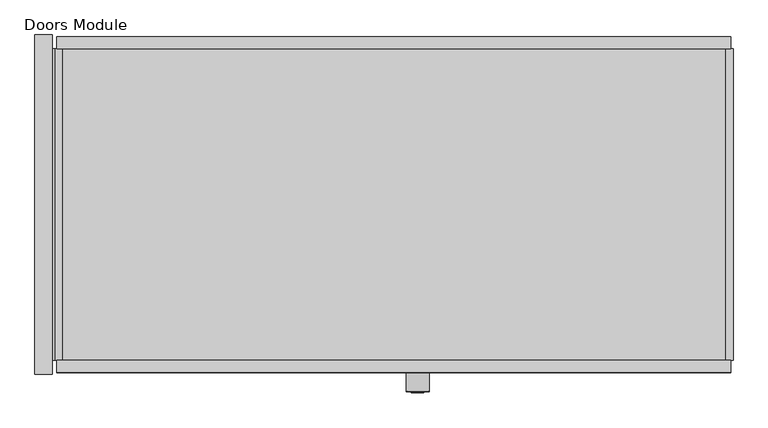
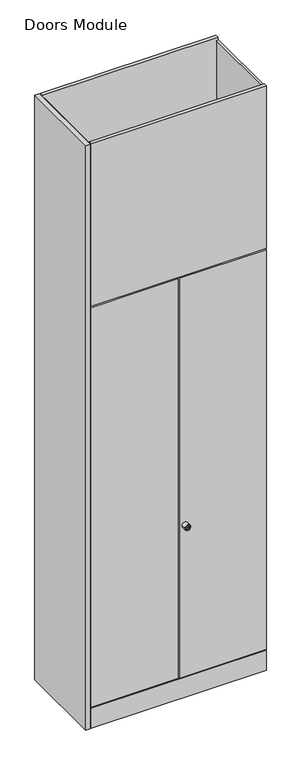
"""IFC4 building model written with IfcOpenShell, lengths in millimetres: furniture geometry, Furniture_Storage_Spacestor_SignatureStoragewall : Doors Module."""

from ifc_helpers import new_model, si_unit, point, frame, origin, origin_with_axes, place, context, project, spatial, polyline, circle_curve, ellipse_curve, trimmed, outline, extrude, source, transform, mapped, element, save
from ifc_brep_helpers import plane_surface, cylinder_surface, revolved_surface, advanced_brep


def doors_module_314bc384(model_context):
    return source(origin(), model_context, "Body", "SolidModel", [
        extrude(outline(polyline([(996.5, 459.0), (3.5, 459.0), (3.5, 477.0), (996.5, 477.0), (996.5, 459.0)])), origin_with_axes(), (0.0, 0.0, 1.0), 3500.0),
        extrude(outline(polyline([(996.5, -18.0), (3.5, -18.0), (3.5, 0.0), (996.5, 0.0), (996.5, -18.0)])), origin_with_axes(), (0.0, 0.0, 1.0), 118.0),
        extrude(outline(polyline([(996.5, -18.0), (3.5, -18.0), (3.5, 0.0), (996.5, 0.0), (996.5, -18.0)])), frame((0.0, 0.0, 2525.0), z_axis=(0.0, 0.0, 1.0), x_axis=(1.0, 0.0, 0.0)), (0.0, 0.0, 1.0), 975.0),
        extrude(outline(polyline([(-29.0, 479.5), (-3.5, 479.5), (-3.5, -20.5), (-29.0, -20.5), (-29.0, 479.5)])), origin_with_axes(), (0.0, 0.0, 1.0), 3500.0),
        extrude(outline(polyline([(0.0, 0.0), (-11.0, 0.0), (-11.0, 459.0), (0.0, 459.0), (0.0, 0.0)])), origin_with_axes(), (0.0, 0.0, 1.0), 3482.0),
        extrude(outline(polyline([(1000.0, 0.0), (989.0, 0.0), (989.0, 459.0), (1000.0, 459.0), (1000.0, 0.0)])), origin_with_axes(), (0.0, 0.0, 1.0), 3482.0),
        extrude(outline(polyline([(11.0, 0.0), (0.0, 0.0), (0.0, 459.0), (11.0, 459.0), (11.0, 0.0)])), origin_with_axes(), (0.0, 0.0, 1.0), 3482.0),
        extrude(outline(polyline([(989.0, 0.0), (11.0, 0.0), (11.0, 459.0), (989.0, 459.0), (989.0, 0.0)])), frame((0.0, 0.0, 2023.0), z_axis=(0.0, 0.0, 1.0), x_axis=(1.0, 0.0, 0.0)), (0.0, 0.0, 1.0), 22.0),
        extrude(outline(polyline([(989.0, 0.0), (11.0, 0.0), (11.0, 459.0), (989.0, 459.0), (989.0, 0.0)])), frame((0.0, 0.0, 1639.0), z_axis=(0.0, 0.0, 1.0), x_axis=(1.0, 0.0, 0.0)), (0.0, 0.0, 1.0), 22.0),
        extrude(outline(polyline([(989.0, 0.0), (11.0, 0.0), (11.0, 459.0), (989.0, 459.0), (989.0, 0.0)])), frame((0.0, 0.0, 1255.0), z_axis=(0.0, 0.0, 1.0), x_axis=(1.0, 0.0, 0.0)), (0.0, 0.0, 1.0), 22.0),
        extrude(outline(polyline([(989.0, 0.0), (11.0, 0.0), (11.0, 459.0), (989.0, 459.0), (989.0, 0.0)])), frame((0.0, 0.0, 871.0), z_axis=(0.0, 0.0, 1.0), x_axis=(1.0, 0.0, 0.0)), (0.0, 0.0, 1.0), 22.0),
        extrude(outline(polyline([(989.0, 0.0), (11.0, 0.0), (11.0, 459.0), (989.0, 459.0), (989.0, 0.0)])), frame((0.0, 0.0, 487.0), z_axis=(0.0, 0.0, 1.0), x_axis=(1.0, 0.0, 0.0)), (0.0, 0.0, 1.0), 22.0),
        advanced_brep(
        [(552.0, -45.3116344, 1032.0), (518.0, -45.3116344, 1032.0), (518.0, -18.0, 1032.0), (552.0, -18.0, 1032.0), (535.0, -18.0, 1032.0), (543.9747319, -46.3150077, 1032.0), (526.0252681, -46.3150077, 1032.0), (519.0033734, -46.3150077, 1032.0), (550.9966266, -46.3150077, 1032.0), (543.9747319, -47.4703043, 1032.0), (526.0252681, -47.4703043, 1032.0), (539.8245152, -47.4703043, 1032.0), (539.8245152, -47.4703043, 1030.6366562), (530.1754848, -47.4703043, 1030.6366562), (530.1754848, -47.4703043, 1032.0), (530.1754848, -47.4703043, 1033.3633438), (539.8245152, -47.4703043, 1033.3633438), (530.1754848, -27.8604291, 1030.6366562), (539.8245152, -27.8604291, 1030.6366562), (539.8245152, -27.8604291, 1033.3633438), (530.1754848, -27.8604291, 1033.3633438)],
        [
            (0, 1, circle_curve(frame((535.0, -45.3116344, 1032.0), z_axis=(0.0, 1.0, 0.0), x_axis=(-1.0, 0.0, 0.0)), 17.0)),
            (1, 2),
            (2, 3, circle_curve(frame((535.0, -18.0, 1032.0), z_axis=(0.0, -1.0, 0.0), x_axis=(-1.0, 0.0, 0.0)), 17.0)),
            (3, 0),
            (1, 0, circle_curve(frame((535.0, -45.3116344, 1032.0), z_axis=(0.0, 1.0, 0.0), x_axis=(-1.0, 0.0, 0.0)), 17.0)),
            (3, 2, circle_curve(frame((535.0, -18.0, 1032.0), z_axis=(0.0, -1.0, 0.0), x_axis=(-1.0, 0.0, 0.0)), 17.0)),
            (2, 4),
            (4, 3),
            (5, 6, circle_curve(frame((535.0, -46.3150077, 1032.0), z_axis=(0.0, 1.0, 0.0), x_axis=(-1.0, 0.0, 0.0)), 8.9747319)),
            (6, 7),
            (7, 8, circle_curve(frame((535.0, -46.3150077, 1032.0), z_axis=(0.0, -1.0, 0.0), x_axis=(-1.0, 0.0, 0.0)), 15.9966266)),
            (8, 5),
            (6, 5, circle_curve(frame((535.0, -46.3150077, 1032.0), z_axis=(0.0, 1.0, 0.0), x_axis=(-1.0, 0.0, 0.0)), 8.9747319)),
            (8, 7, circle_curve(frame((535.0, -46.3150077, 1032.0), z_axis=(0.0, -1.0, 0.0), x_axis=(-1.0, 0.0, 0.0)), 15.9966266)),
            (0, 8, circle_curve(frame((550.9966266, -45.3116344, 1032.0), z_axis=(0.0, 0.0, -1.0), x_axis=(1.0, 0.0, 0.0)), 1.0033734)),
            (7, 1, circle_curve(frame((519.0033734, -45.3116344, 1032.0), z_axis=(0.0, 0.0, -1.0), x_axis=(-1.0, 0.0, 0.0)), 1.0033734)),
            (5, 9),
            (9, 10, circle_curve(frame((535.0, -47.4703043, 1032.0), z_axis=(0.0, 1.0, 0.0), x_axis=(-1.0, 0.0, 0.0)), 8.9747319)),
            (10, 6),
            (10, 9, circle_curve(frame((535.0, -47.4703043, 1032.0), z_axis=(0.0, 1.0, 0.0), x_axis=(-1.0, 0.0, 0.0)), 8.9747319)),
            (9, 11),
            (11, 12),
            (12, 13),
            (13, 14),
            (14, 10),
            (14, 15),
            (15, 16),
            (16, 11),
            (17, 18),
            (18, 19),
            (19, 20),
            (20, 17),
            (17, 13),
            (12, 18),
            (16, 19),
            (15, 20),
        ],
        [
            cylinder_surface(frame((535.0, -2627.0581012, 1032.0), z_axis=(0.0, -1.0, 0.0), x_axis=(-1.0, 0.0, 0.0)), 17.0),
            plane_surface(frame((535.0, -18.0, 1032.0), z_axis=(0.0, 1.0, 0.0), x_axis=(-1.0, 0.0, 0.0))),
            plane_surface(frame((535.0, -46.3150077, 1032.0), z_axis=(0.0, -1.0, 0.0), x_axis=(-1.0, 0.0, 0.0))),
            revolved_surface(trimmed(ellipse_curve(frame((519.0033734, -45.3116344, 1032.0), z_axis=(0.0, 0.0, 1.0), x_axis=(-1.0, 0.0, 0.0)), 1.0033734, 1.0033734), [point((518.0, -45.3116344, 1032.0))], [point((519.0033734, -46.3150077, 1032.0))], True, "CARTESIAN"), (535.0, -2627.0581012, 1032.0), (0.0, -1.0, 0.0)),
            cylinder_surface(frame((535.0, -2627.0581012, 1032.0), z_axis=(0.0, -1.0, 0.0), x_axis=(-1.0, 0.0, 0.0)), 8.9747319),
            plane_surface(frame((535.0, -47.4703043, 1032.0), z_axis=(0.0, -1.0, 0.0), x_axis=(-1.0, 0.0, 0.0))),
            plane_surface(frame((539.4565249, -27.8604291, 1030.6366562), z_axis=(0.0, -1.0, 0.0), x_axis=(-1.0, 0.0, 0.0))),
            plane_surface(frame((530.1754848, -49.2046383, 1030.6366562), z_axis=(0.0, 0.0, 1.0), x_axis=(0.0, 1.0, 0.0))),
            plane_surface(frame((539.8245152, -49.2046383, 1030.6366562), z_axis=(-1.0, 0.0, 0.0), x_axis=(0.0, 1.0, 0.0))),
            plane_surface(frame((539.8245152, -49.2046383, 1033.3633438), z_axis=(0.0, 0.0, -1.0), x_axis=(0.0, 1.0, 0.0))),
            plane_surface(frame((530.1754848, -49.2046383, 1033.3633438), z_axis=(1.0, 0.0, 0.0), x_axis=(0.0, 1.0, 0.0))),
        ],
        [
            (0, [[1, 2, 3, 4]]),
            (0, [[-2, 5, -4, 6]]),
            (1, [[-3, 7, 8]]),
            (1, [[-6, -8, -7]]),
            (2, [[9, 10, 11, 12]]),
            (2, [[-10, 13, -12, 14]]),
            (3, [[-1, 15, -11, 16]]),
            (3, [[-5, -16, -14, -15]]),
            (4, [[-9, 17, 18, 19]]),
            (4, [[-13, -19, 20, -17]]),
            (5, [[-18, 21, 22, 23, 24, 25]]),
            (5, [[-20, -25, 26, 27, 28, -21]]),
            (6, [[29, 30, 31, 32]]),
            (7, [[-29, 33, -23, 34]]),
            (8, [[-30, -34, -22, -28, 35]]),
            (9, [[-31, -35, -27, 36]]),
            (10, [[-32, -36, -26, -24, -33]]),
        ],
    ),
        extrude(outline(polyline([(3.5, -18.0), (3.5, 0.0), (496.5, 0.0), (496.5, -18.0), (3.5, -18.0)])), frame((0.0, 0.0, 125.0), z_axis=(0.0, 0.0, 1.0), x_axis=(1.0, 0.0, 0.0)), (0.0, 0.0, 1.0), 2393.0),
        extrude(outline(polyline([(996.5, -18.0), (503.5, -18.0), (503.5, 0.0), (996.5, 0.0), (996.5, -18.0)])), frame((0.0, 0.0, 125.0), z_axis=(0.0, 0.0, 1.0), x_axis=(1.0, 0.0, 0.0)), (0.0, 0.0, 1.0), 2393.0),
        extrude(outline(polyline([(989.0, 0.0), (11.0, 0.0), (11.0, 459.0), (989.0, 459.0), (989.0, 0.0)])), frame((0.0, 0.0, 110.5), z_axis=(0.0, 0.0, 1.0), x_axis=(1.0, 0.0, 0.0)), (0.0, 0.0, 1.0), 22.0),
        extrude(outline(polyline([(989.0, 0.0), (11.0, 0.0), (11.0, 459.0), (989.0, 459.0), (989.0, 0.0)])), frame((0.0, 0.0, 2510.0), z_axis=(0.0, 0.0, 1.0), x_axis=(1.0, 0.0, 0.0)), (0.0, 0.0, 1.0), 22.0),
    ])


if __name__ == "__main__":
    model = new_model("IFC4")
    model_context = context("Model", 3, world=origin())
    ifc_project = project(units=[si_unit("LENGTHUNIT", "METRE", prefix="MILLI")], contexts=[model_context])
    site = spatial("IfcSite", under=ifc_project)
    building = spatial("IfcBuilding", under=site)
    placement = place(None, origin())
    doors_module_shape = doors_module_314bc384(model_context)
    element("IfcFurniture", 1, ObjectType="Furniture_Storage_Spacestor_SignatureStoragewall : Doors Module", at=placement, inside=building, context=model_context, shape_type="MappedRepresentation", body=[
        mapped(doors_module_shape, transform((0.0, 0.0, 0.0), x_axis=(1.0, 0.0, 0.0), y_axis=(0.0, 1.0, 0.0), z_axis=(0.0, 0.0, 1.0))),
    ])
    save(model, "model.ifc")
